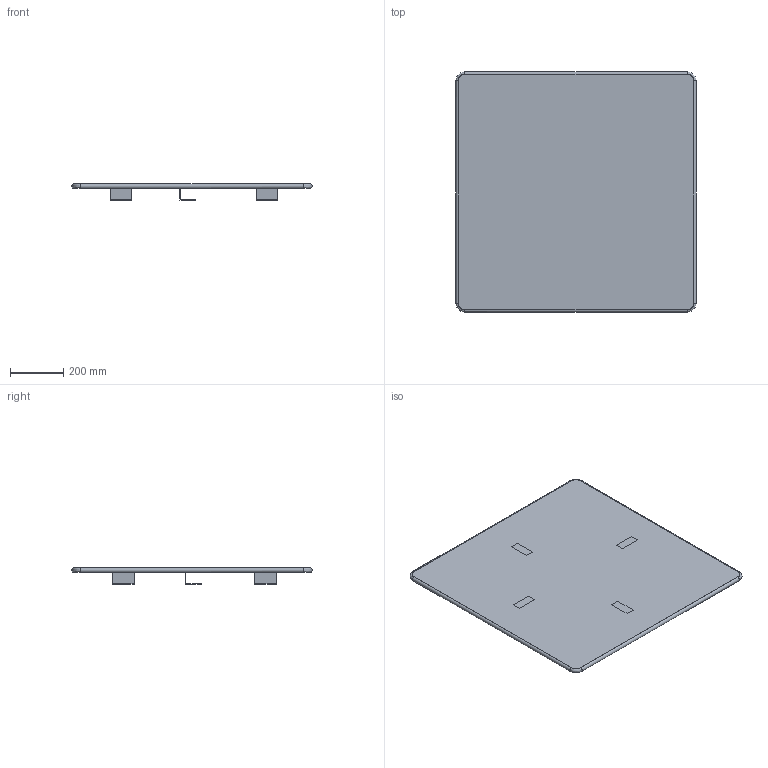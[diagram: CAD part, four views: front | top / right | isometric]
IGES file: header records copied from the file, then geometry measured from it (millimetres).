
Start section: SolidWorks IGES file using NURBS representation for surfaces
Global section: file name: G:\VICCARBE\PRODUCTOS\26-PANELES LAYER\04-MODELADOS (PLANOS)\especiales para 3D\VICCARBE_LayerPanel_900x900d25.IGS; native system: SolidWorks 2009; preprocessor: SolidWorks 2009; author: RUBEN; date: 110906.120011; units: millimetre
Bounding box: 901 x 901 x 60.5 mm (x, y, z)
Surface area: 1937623.7 mm2 (no closed solid volume)
Topology: 0 solids, 0 shells, 65 faces, 436 edges, 436 vertices
Faces by surface type: bspline 65
